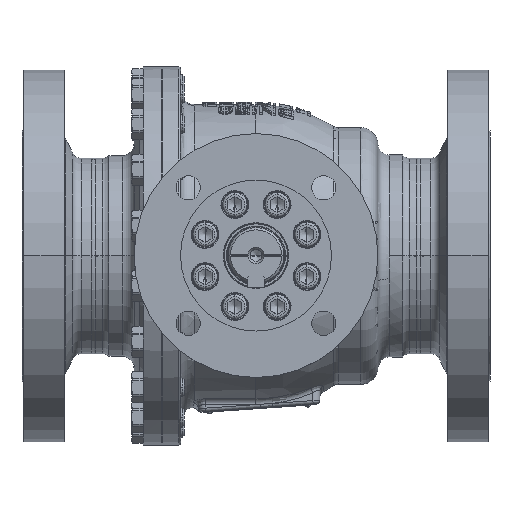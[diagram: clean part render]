
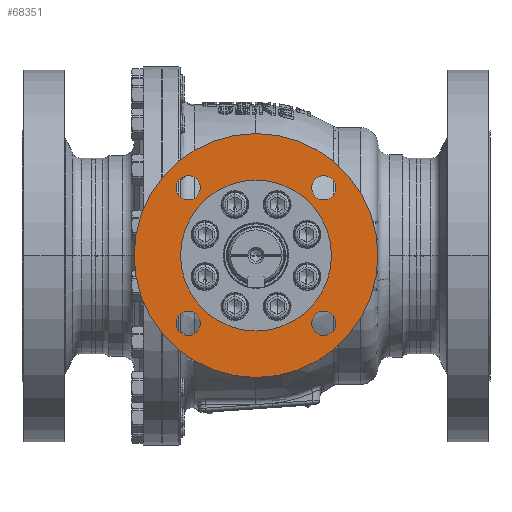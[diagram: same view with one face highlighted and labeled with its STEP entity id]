
A CAD part, top view. The second image highlights one B-rep face of the part: STEP entity #68351.
In plain terms, the highlighted planar face has unit normal (0, 0, 1).
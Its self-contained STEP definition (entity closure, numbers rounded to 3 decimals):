
#1267=CARTESIAN_POINT('',(0.,0.,233.));
#1268=DIRECTION('',(0.,0.,1.));
#1269=DIRECTION('',(1.,0.,0.));
#1270=AXIS2_PLACEMENT_3D('',#1267,#1268,#1269);
#1276=CARTESIAN_POINT('',(0.,0.,233.));
#1277=DIRECTION('',(0.,0.,-1.));
#1278=DIRECTION('',(1.,0.,0.));
#1279=AXIS2_PLACEMENT_3D('',#1276,#1277,#1278);
#1285=CARTESIAN_POINT('',(0.,0.,233.));
#1286=DIRECTION('',(0.,0.,1.));
#1287=DIRECTION('',(1.,0.,0.));
#1288=AXIS2_PLACEMENT_3D('',#1285,#1286,#1287);
#1290=CARTESIAN_POINT('',(0.,0.,233.));
#1291=DIRECTION('',(0.,0.,-1.));
#1292=DIRECTION('',(1.,0.,0.));
#1293=AXIS2_PLACEMENT_3D('',#1290,#1291,#1292);
#1295=CARTESIAN_POINT('',(58.336,-58.336,233.));
#1296=DIRECTION('',(0.,0.,-1.));
#1297=DIRECTION('',(-1.,0.,0.));
#1298=AXIS2_PLACEMENT_3D('',#1295,#1296,#1297);
#1300=CARTESIAN_POINT('',(58.336,-58.336,233.));
#1301=DIRECTION('',(0.,0.,-1.));
#1302=DIRECTION('',(1.,0.,0.));
#1303=AXIS2_PLACEMENT_3D('',#1300,#1301,#1302);
#1305=CARTESIAN_POINT('',(-58.336,-58.336,233.));
#1306=DIRECTION('',(0.,0.,-1.));
#1307=DIRECTION('',(0.,1.,0.));
#1308=AXIS2_PLACEMENT_3D('',#1305,#1306,#1307);
#1310=CARTESIAN_POINT('',(-58.336,-58.336,233.));
#1311=DIRECTION('',(0.,0.,-1.));
#1312=DIRECTION('',(0.,-1.,0.));
#1313=AXIS2_PLACEMENT_3D('',#1310,#1311,#1312);
#1315=CARTESIAN_POINT('',(-58.336,58.336,233.));
#1316=DIRECTION('',(0.,0.,-1.));
#1317=DIRECTION('',(1.,0.,0.));
#1318=AXIS2_PLACEMENT_3D('',#1315,#1316,#1317);
#1320=CARTESIAN_POINT('',(-58.336,58.336,233.));
#1321=DIRECTION('',(0.,0.,-1.));
#1322=DIRECTION('',(-1.,0.,0.));
#1323=AXIS2_PLACEMENT_3D('',#1320,#1321,#1322);
#1325=CARTESIAN_POINT('',(58.336,58.336,233.));
#1326=DIRECTION('',(0.,0.,-1.));
#1327=DIRECTION('',(0.,-1.,0.));
#1328=AXIS2_PLACEMENT_3D('',#1325,#1326,#1327);
#1330=CARTESIAN_POINT('',(58.336,58.336,233.));
#1331=DIRECTION('',(0.,0.,-1.));
#1332=DIRECTION('',(0.,1.,0.));
#1333=AXIS2_PLACEMENT_3D('',#1330,#1331,#1332);
#60718=CARTESIAN_POINT('',(65.,0.,233.));
#60720=VERTEX_POINT('',#60718);
#60722=CARTESIAN_POINT('',(-65.,0.,233.));
#60724=VERTEX_POINT('',#60722);
#60726=CARTESIAN_POINT('',(105.,0.,233.));
#60727=CARTESIAN_POINT('',(-105.,0.,233.));
#60728=VERTEX_POINT('',#60726);
#60729=VERTEX_POINT('',#60727);
#60782=CARTESIAN_POINT('',(47.836,-58.336,233.));
#60783=CARTESIAN_POINT('',(68.836,-58.336,233.));
#60784=VERTEX_POINT('',#60782);
#60785=VERTEX_POINT('',#60783);
#60786=CARTESIAN_POINT('',(-58.336,-47.836,233.));
#60787=CARTESIAN_POINT('',(-58.336,-68.836,233.));
#60788=VERTEX_POINT('',#60786);
#60789=VERTEX_POINT('',#60787);
#60790=CARTESIAN_POINT('',(-47.836,58.336,233.));
#60791=CARTESIAN_POINT('',(-68.836,58.336,233.));
#60792=VERTEX_POINT('',#60790);
#60793=VERTEX_POINT('',#60791);
#60794=CARTESIAN_POINT('',(58.336,47.836,233.));
#60795=CARTESIAN_POINT('',(58.336,68.836,233.));
#60796=VERTEX_POINT('',#60794);
#60797=VERTEX_POINT('',#60795);
#68312=CARTESIAN_POINT('',(0.,0.,233.));
#68313=DIRECTION('',(0.,0.,1.));
#68314=DIRECTION('',(1.,0.,0.));
#68315=AXIS2_PLACEMENT_3D('',#68312,#68313,#68314);
#68316=PLANE('',#68315);
#68318=ORIENTED_EDGE('',*,*,#68317,.F.);
#68320=ORIENTED_EDGE('',*,*,#68319,.T.);
#68321=EDGE_LOOP('',(#68318,#68320));
#68322=FACE_OUTER_BOUND('',#68321,.F.);
#68323=ORIENTED_EDGE('',*,*,#68305,.F.);
#68324=ORIENTED_EDGE('',*,*,#68294,.T.);
#68325=EDGE_LOOP('',(#68323,#68324));
#68326=FACE_BOUND('',#68325,.F.);
#68328=ORIENTED_EDGE('',*,*,#68327,.F.);
#68330=ORIENTED_EDGE('',*,*,#68329,.F.);
#68331=EDGE_LOOP('',(#68328,#68330));
#68332=FACE_BOUND('',#68331,.F.);
#68334=ORIENTED_EDGE('',*,*,#68333,.F.);
#68336=ORIENTED_EDGE('',*,*,#68335,.F.);
#68337=EDGE_LOOP('',(#68334,#68336));
#68338=FACE_BOUND('',#68337,.F.);
#68340=ORIENTED_EDGE('',*,*,#68339,.F.);
#68342=ORIENTED_EDGE('',*,*,#68341,.F.);
#68343=EDGE_LOOP('',(#68340,#68342));
#68344=FACE_BOUND('',#68343,.F.);
#68346=ORIENTED_EDGE('',*,*,#68345,.F.);
#68348=ORIENTED_EDGE('',*,*,#68347,.F.);
#68349=EDGE_LOOP('',(#68346,#68348));
#68350=FACE_BOUND('',#68349,.F.);
#68351=ADVANCED_FACE('',(#68322,#68326,#68332,#68338,#68344,#68350),#68316,.T.);
#1271=CIRCLE('',#1270,65.);
#1280=CIRCLE('',#1279,65.);
#1289=CIRCLE('',#1288,105.);
#1294=CIRCLE('',#1293,105.);
#1299=CIRCLE('',#1298,10.5);
#1304=CIRCLE('',#1303,10.5);
#1309=CIRCLE('',#1308,10.5);
#1314=CIRCLE('',#1313,10.5);
#1319=CIRCLE('',#1318,10.5);
#1324=CIRCLE('',#1323,10.5);
#1329=CIRCLE('',#1328,10.5);
#1334=CIRCLE('',#1333,10.5);
#68294=EDGE_CURVE('',#60720,#60724,#1271,.T.);
#68305=EDGE_CURVE('',#60720,#60724,#1280,.T.);
#68317=EDGE_CURVE('',#60728,#60729,#1289,.T.);
#68319=EDGE_CURVE('',#60728,#60729,#1294,.T.);
#68327=EDGE_CURVE('',#60784,#60785,#1299,.T.);
#68329=EDGE_CURVE('',#60785,#60784,#1304,.T.);
#68333=EDGE_CURVE('',#60788,#60789,#1309,.T.);
#68335=EDGE_CURVE('',#60789,#60788,#1314,.T.);
#68339=EDGE_CURVE('',#60792,#60793,#1319,.T.);
#68341=EDGE_CURVE('',#60793,#60792,#1324,.T.);
#68345=EDGE_CURVE('',#60796,#60797,#1329,.T.);
#68347=EDGE_CURVE('',#60797,#60796,#1334,.T.);
